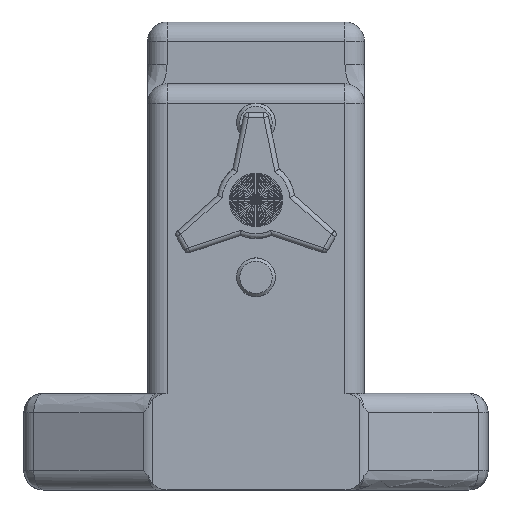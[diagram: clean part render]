
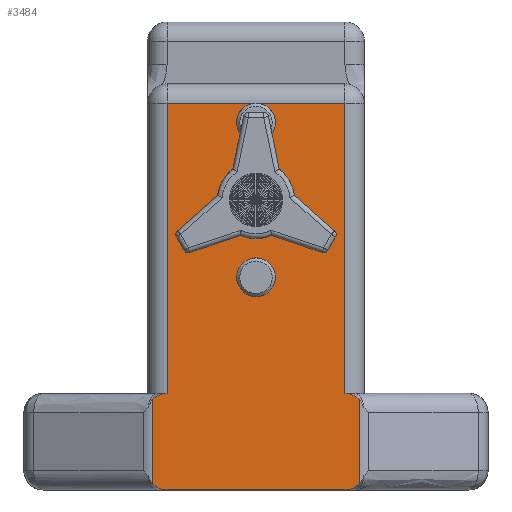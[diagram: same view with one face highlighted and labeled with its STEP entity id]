
A CAD part, front view. The second image highlights one B-rep face of the part: STEP entity #3484.
In plain terms, the highlighted planar face has unit normal (0, -1, 0).
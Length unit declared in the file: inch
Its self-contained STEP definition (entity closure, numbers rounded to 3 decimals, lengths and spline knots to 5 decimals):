
#577=CARTESIAN_POINT('',(12.35018,45.48413,49.90598));
#578=VERTEX_POINT('',#577);
#627=CARTESIAN_POINT('',(11.20018,45.48413,49.90598));
#628=VERTEX_POINT('',#627);
#707=CARTESIAN_POINT('',(12.35018,45.48413,51.78098));
#708=VERTEX_POINT('',#707);
#709=CARTESIAN_POINT('',(12.35018,45.48413,51.78098));
#710=DIRECTION('',(0.0,0.0,-1.0));
#711=VECTOR('',#710,1.875);
#712=LINE('',#709,#711);
#713=EDGE_CURVE('',#708,#578,#712,.T.);
#739=CARTESIAN_POINT('',(11.20018,45.48413,51.78098));
#740=VERTEX_POINT('',#739);
#741=CARTESIAN_POINT('',(11.20018,45.48413,49.90598));
#742=DIRECTION('',(0.0,0.0,1.0));
#743=VECTOR('',#742,1.875);
#744=LINE('',#741,#743);
#745=EDGE_CURVE('',#628,#740,#744,.T.);
#771=CARTESIAN_POINT('',(11.76727,45.48413,51.78098));
#772=VERTEX_POINT('',#771);
#773=CARTESIAN_POINT('',(11.78309,45.48413,51.78098));
#774=VERTEX_POINT('',#773);
#785=CARTESIAN_POINT('',(11.78309,45.48413,51.78098));
#786=DIRECTION('',(1.0,0.0,0.0));
#787=VECTOR('',#786,0.56709);
#788=LINE('',#785,#787);
#789=EDGE_CURVE('',#774,#708,#788,.T.);
#815=CARTESIAN_POINT('',(11.20018,45.48413,51.78098));
#816=DIRECTION('',(1.0,0.0,0.0));
#817=VECTOR('',#816,0.56709);
#818=LINE('',#815,#817);
#819=EDGE_CURVE('',#740,#772,#818,.T.);
#1041=CARTESIAN_POINT('',(11.65018,45.48413,51.15598));
#1042=VERTEX_POINT('',#1041);
#1043=CARTESIAN_POINT('',(11.77518,45.48413,51.15598));
#1044=DIRECTION('',(0.0,1.0,0.0));
#1045=DIRECTION('',(-1.0,0.0,0.0));
#1046=AXIS2_PLACEMENT_3D('',#1043,#1044,#1045);
#1047=CIRCLE('',#1046,0.125);
#1048=EDGE_CURVE('',#1042,#1042,#1047,.T.);
#1059=CARTESIAN_POINT('',(11.77518,45.48413,51.65598));
#1060=DIRECTION('',(0.0,1.0,0.0));
#1061=DIRECTION('',(-1.0,0.0,0.0));
#1062=AXIS2_PLACEMENT_3D('',#1059,#1060,#1061);
#1063=CIRCLE('',#1062,0.12525);
#1064=EDGE_CURVE('',#774,#772,#1063,.T.);
#1080=CARTESIAN_POINT('',(11.64993,45.48413,50.65598));
#1081=VERTEX_POINT('',#1080);
#1082=CARTESIAN_POINT('',(11.77518,45.48413,50.65598));
#1083=DIRECTION('',(0.0,1.0,0.0));
#1084=DIRECTION('',(-1.0,0.0,0.0));
#1085=AXIS2_PLACEMENT_3D('',#1082,#1083,#1084);
#1086=CIRCLE('',#1085,0.12525);
#1087=EDGE_CURVE('',#1081,#1081,#1086,.T.);
#1205=CARTESIAN_POINT('',(11.10792,45.48413,49.32164));
#1206=VERTEX_POINT('',#1205);
#1224=CARTESIAN_POINT('',(11.10792,45.48413,49.86532));
#1225=VERTEX_POINT('',#1224);
#1226=CARTESIAN_POINT('',(11.10792,45.48413,49.32164));
#1227=DIRECTION('',(0.0,0.0,1.0));
#1228=VECTOR('',#1227,0.54369);
#1229=LINE('',#1226,#1228);
#1230=EDGE_CURVE('',#1206,#1225,#1229,.T.);
#2936=CARTESIAN_POINT('',(12.44243,45.48413,49.86532));
#2937=VERTEX_POINT('',#2936);
#2957=CARTESIAN_POINT('',(12.35018,45.48413,49.78098));
#2958=DIRECTION('',(0.0,-1.0,0.0));
#2959=DIRECTION('',(-1.0,0.0,0.0));
#2960=AXIS2_PLACEMENT_3D('',#2957,#2958,#2959);
#2961=CIRCLE('',#2960,0.125);
#2962=EDGE_CURVE('',#2937,#578,#2961,.T.);
#3000=CARTESIAN_POINT('',(12.44243,45.48413,49.32164));
#3001=VERTEX_POINT('',#3000);
#3019=CARTESIAN_POINT('',(12.35018,45.48413,49.28098));
#3020=VERTEX_POINT('',#3019);
#3021=CARTESIAN_POINT('',(12.35018,45.48413,49.40598));
#3022=DIRECTION('',(0.0,-1.0,0.0));
#3023=DIRECTION('',(-1.0,0.0,0.0));
#3024=AXIS2_PLACEMENT_3D('',#3021,#3022,#3023);
#3025=CIRCLE('',#3024,0.125);
#3026=EDGE_CURVE('',#3020,#3001,#3025,.T.);
#3263=CARTESIAN_POINT('',(11.20018,45.48413,49.78098));
#3264=DIRECTION('',(0.0,-1.0,0.0));
#3265=DIRECTION('',(1.0,0.0,0.0));
#3266=AXIS2_PLACEMENT_3D('',#3263,#3264,#3265);
#3267=CIRCLE('',#3266,0.125);
#3268=EDGE_CURVE('',#628,#1225,#3267,.T.);
#3332=CARTESIAN_POINT('',(11.20018,45.48413,49.28098));
#3333=VERTEX_POINT('',#3332);
#3341=CARTESIAN_POINT('',(11.20018,45.48413,49.40598));
#3342=DIRECTION('',(0.0,-1.0,0.0));
#3343=DIRECTION('',(1.0,0.0,0.0));
#3344=AXIS2_PLACEMENT_3D('',#3341,#3342,#3343);
#3345=CIRCLE('',#3344,0.125);
#3346=EDGE_CURVE('',#1206,#3333,#3345,.T.);
#3419=CARTESIAN_POINT('',(12.35018,45.48413,49.28098));
#3420=DIRECTION('',(-1.0,0.0,0.0));
#3421=VECTOR('',#3420,1.15);
#3422=LINE('',#3419,#3421);
#3423=EDGE_CURVE('',#3020,#3333,#3422,.T.);
#3448=CARTESIAN_POINT('',(12.44243,45.48413,49.86532));
#3449=DIRECTION('',(0.0,0.0,-1.0));
#3450=VECTOR('',#3449,0.54369);
#3451=LINE('',#3448,#3450);
#3452=EDGE_CURVE('',#2937,#3001,#3451,.T.);
#3459=CARTESIAN_POINT('',(12.47518,45.48413,49.28098));
#3460=DIRECTION('',(0.0,-1.0,0.0));
#3461=DIRECTION('',(0.0,0.0,1.0));
#3462=AXIS2_PLACEMENT_3D('',#3459,#3460,#3461);
#3463=PLANE('',#3462);
#3464=ORIENTED_EDGE('',*,*,#2962,.T.);
#3465=ORIENTED_EDGE('',*,*,#713,.F.);
#3466=ORIENTED_EDGE('',*,*,#789,.F.);
#3467=ORIENTED_EDGE('',*,*,#1064,.T.);
#3468=ORIENTED_EDGE('',*,*,#819,.F.);
#3469=ORIENTED_EDGE('',*,*,#745,.F.);
#3470=ORIENTED_EDGE('',*,*,#3268,.T.);
#3471=ORIENTED_EDGE('',*,*,#1230,.F.);
#3472=ORIENTED_EDGE('',*,*,#3346,.T.);
#3473=ORIENTED_EDGE('',*,*,#3423,.F.);
#3474=ORIENTED_EDGE('',*,*,#3026,.T.);
#3475=ORIENTED_EDGE('',*,*,#3452,.F.);
#3476=EDGE_LOOP('',(#3464,#3465,#3466,#3467,#3468,#3469,#3470,#3471,#3472,#3473,#3474,#3475));
#3477=FACE_OUTER_BOUND('',#3476,.T.);
#3478=ORIENTED_EDGE('',*,*,#1048,.T.);
#3479=EDGE_LOOP('',(#3478));
#3480=FACE_BOUND('',#3479,.T.);
#3481=ORIENTED_EDGE('',*,*,#1087,.T.);
#3482=EDGE_LOOP('',(#3481));
#3483=FACE_BOUND('',#3482,.T.);
#3484=ADVANCED_FACE('',(#3477,#3480,#3483),#3463,.T.);
